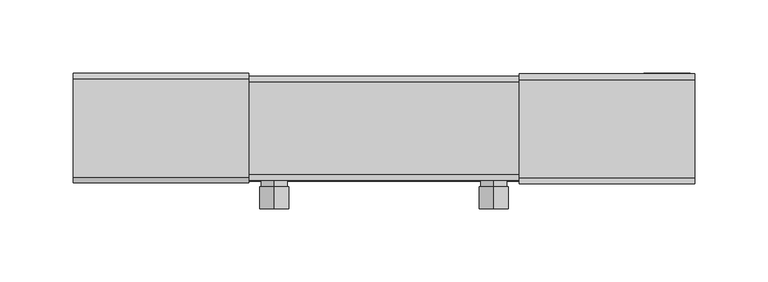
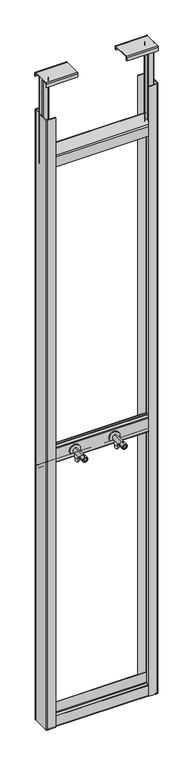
"""IFC4 building model written with IfcOpenShell, lengths in millimetres: flow terminal geometry, NLRS_74_PF_TLB_HU-ASM-BR-AP_Geberit : HU-ASM-BR-AP."""

from ifc_helpers import new_model, si_unit, point, frame, frame_2d, origin, place, context, project, spatial, polyline, circle_curve, trimmed, segment, composite_curve, outline, extrude, source, transform, mapped, element, save
from ifc_brep_helpers import plane_surface, cylinder_surface, revolved_surface, advanced_brep


def flow_terminal_70dfd4ff(model_context):
    return source(origin(), model_context, "Body", "SolidModel", [
        extrude(outline(composite_curve([segment(trimmed(circle_curve(frame_2d((850.0, 894.5814924)), 20.0), [point((841.7647059, 912.8072964))], [point((841.7647059, 876.3556885))], False, "CARTESIAN"), True, "CONTINUOUS"), segment(trimmed(circle_curve(frame_2d((843.0, 879.0895591)), 3.0), [point((841.7647059, 876.3556885))], [point((840.0, 879.0895591))], False, "CARTESIAN"), True, "CONTINUOUS"), segment(polyline([(840.0, 879.0895591), (840.0, 910.0734258)]), True, "CONTINUOUS"), segment(trimmed(circle_curve(frame_2d((843.0, 910.0734258)), 3.0), [point((840.0, 910.0734258))], [point((841.7647059, 912.8072964))], False, "CARTESIAN"), True, "CONTINUOUS")], self_intersect=False)), frame((0.0, 48.2121106, 0.0), z_axis=(0.0, 1.0, 0.0), x_axis=(0.0, 0.0, 1.0)), (0.0, 0.0, 1.0), 5.0),
        advanced_brep(
        [(894.5814924, 35.2121106, 815.0), (894.5814924, 41.2121106, 815.0), (894.5814924, 29.2121106, 815.0), (894.5814924, 41.2121106, 830.0), (894.5814924, 29.2121106, 830.0), (894.5814924, 43.2121106, 830.0), (894.5814924, 27.2121106, 830.0), (894.5814924, 43.2121106, 850.0), (894.5814924, 27.2121106, 850.0), (894.5814924, 35.2121106, 850.0)],
        [
            (0, 1),
            (1, 2, circle_curve(frame((894.5814924, 35.2121106, 815.0), z_axis=(0.0, 0.0, -1.0), x_axis=(0.0, 1.0, 0.0)), 6.0)),
            (2, 0),
            (2, 1, circle_curve(frame((894.5814924, 35.2121106, 815.0), z_axis=(0.0, 0.0, -1.0), x_axis=(0.0, 1.0, 0.0)), 6.0)),
            (1, 3),
            (3, 4, circle_curve(frame((894.5814924, 35.2121106, 830.0), z_axis=(0.0, 0.0, -1.0), x_axis=(0.0, 1.0, 0.0)), 6.0)),
            (4, 2),
            (4, 3, circle_curve(frame((894.5814924, 35.2121106, 830.0), z_axis=(0.0, 0.0, -1.0), x_axis=(0.0, 1.0, 0.0)), 6.0)),
            (3, 5),
            (5, 6, circle_curve(frame((894.5814924, 35.2121106, 830.0), z_axis=(0.0, 0.0, -1.0), x_axis=(0.0, 1.0, 0.0)), 8.0)),
            (6, 4),
            (6, 5, circle_curve(frame((894.5814924, 35.2121106, 830.0), z_axis=(0.0, 0.0, -1.0), x_axis=(0.0, 1.0, 0.0)), 8.0)),
            (5, 7),
            (7, 8, circle_curve(frame((894.5814924, 35.2121106, 850.0), z_axis=(0.0, 0.0, -1.0), x_axis=(0.0, 1.0, 0.0)), 8.0)),
            (8, 6),
            (8, 7, circle_curve(frame((894.5814924, 35.2121106, 850.0), z_axis=(0.0, 0.0, -1.0), x_axis=(0.0, 1.0, 0.0)), 8.0)),
            (7, 9),
            (9, 8),
        ],
        [
            plane_surface(frame((894.5814924, 35.2121106, 815.0), z_axis=(0.0, 0.0, -1.0), x_axis=(0.0, 1.0, 0.0))),
            cylinder_surface(frame((894.5814924, 35.2121106, 854.6416054), z_axis=(0.0, 0.0, -1.0), x_axis=(0.0, 1.0, 0.0)), 6.0),
            plane_surface(frame((894.5814924, 35.2121106, 830.0), z_axis=(0.0, 0.0, -1.0), x_axis=(0.0, 1.0, 0.0))),
            cylinder_surface(frame((894.5814924, 35.2121106, 854.6416054), z_axis=(0.0, 0.0, -1.0), x_axis=(0.0, 1.0, 0.0)), 8.0),
            plane_surface(frame((894.5814924, 35.2121106, 850.0), z_axis=(0.0, 0.0, 1.0), x_axis=(0.0, 1.0, 0.0))),
        ],
        [
            (0, [[1, 2, 3]]),
            (0, [[-3, 4, -1]]),
            (1, [[-2, 5, 6, 7]]),
            (1, [[-4, -7, 8, -5]]),
            (2, [[-6, 9, 10, 11]]),
            (2, [[-8, -11, 12, -9]]),
            (3, [[-10, 13, 14, 15]]),
            (3, [[-12, -15, 16, -13]]),
            (4, [[-14, 17, 18]]),
            (4, [[-16, -18, -17]]),
        ],
    ),
        advanced_brep(
        [(894.5814924, -1.7878894, 841.0), (894.5814924, -1.7878894, 859.0), (894.5814924, -1.7878894, 860.0), (894.5814924, -1.7878894, 840.0), (894.5814924, -16.7878894, 860.0), (894.5814924, -16.7878894, 840.0), (894.5814924, -16.7878894, 856.0), (894.5814924, -16.7878894, 844.0), (894.5814924, 13.2121106, 856.0), (894.5814924, 13.2121106, 844.0), (894.5814924, 13.2121106, 850.0), (894.5814924, 48.2121106, 850.0), (894.5814924, 48.2121106, 859.0), (894.5814924, 48.2121106, 841.0)],
        [
            (0, 1, circle_curve(frame((894.5814924, -1.7878894, 850.0), z_axis=(0.0, -1.0, 0.0), x_axis=(0.0, 0.0, 1.0)), 9.0)),
            (1, 2),
            (2, 3, circle_curve(frame((894.5814924, -1.7878894, 850.0), z_axis=(0.0, 1.0, 0.0), x_axis=(0.0, 0.0, 1.0)), 10.0)),
            (3, 0),
            (1, 0, circle_curve(frame((894.5814924, -1.7878894, 850.0), z_axis=(0.0, -1.0, 0.0), x_axis=(0.0, 0.0, 1.0)), 9.0)),
            (3, 2, circle_curve(frame((894.5814924, -1.7878894, 850.0), z_axis=(0.0, 1.0, 0.0), x_axis=(0.0, 0.0, 1.0)), 10.0)),
            (2, 4),
            (4, 5, circle_curve(frame((894.5814924, -16.7878894, 850.0), z_axis=(0.0, 1.0, 0.0), x_axis=(0.0, 0.0, 1.0)), 10.0)),
            (5, 3),
            (5, 4, circle_curve(frame((894.5814924, -16.7878894, 850.0), z_axis=(0.0, 1.0, 0.0), x_axis=(0.0, 0.0, 1.0)), 10.0)),
            (4, 6),
            (6, 7, circle_curve(frame((894.5814924, -16.7878894, 850.0), z_axis=(0.0, 1.0, 0.0), x_axis=(0.0, 0.0, 1.0)), 6.0)),
            (7, 5),
            (7, 6, circle_curve(frame((894.5814924, -16.7878894, 850.0), z_axis=(0.0, 1.0, 0.0), x_axis=(0.0, 0.0, 1.0)), 6.0)),
            (6, 8),
            (8, 9, circle_curve(frame((894.5814924, 13.2121106, 850.0), z_axis=(0.0, 1.0, 0.0), x_axis=(0.0, 0.0, 1.0)), 6.0)),
            (9, 7),
            (9, 8, circle_curve(frame((894.5814924, 13.2121106, 850.0), z_axis=(0.0, 1.0, 0.0), x_axis=(0.0, 0.0, 1.0)), 6.0)),
            (8, 10),
            (10, 9),
            (11, 12),
            (12, 13, circle_curve(frame((894.5814924, 48.2121106, 850.0), z_axis=(0.0, 1.0, 0.0), x_axis=(0.0, 0.0, 1.0)), 9.0)),
            (13, 11),
            (13, 12, circle_curve(frame((894.5814924, 48.2121106, 850.0), z_axis=(0.0, 1.0, 0.0), x_axis=(0.0, 0.0, 1.0)), 9.0)),
            (12, 1),
            (0, 13),
        ],
        [
            plane_surface(frame((894.5814924, -1.7878894, 850.0), z_axis=(0.0, 1.0, 0.0), x_axis=(0.0, 0.0, 1.0))),
            cylinder_surface(frame((894.5814924, 1495.6330064, 850.0), z_axis=(0.0, 1.0, 0.0), x_axis=(0.0, 0.0, 1.0)), 10.0),
            plane_surface(frame((894.5814924, -16.7878894, 850.0), z_axis=(0.0, -1.0, 0.0), x_axis=(0.0, 0.0, 1.0))),
            revolved_surface(polyline([(894.5814924, 13.21211059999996, 856.0), (894.5814924, -16.78788940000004, 856.0)]), (894.5814924, 1495.6330064, 850.0), (0.0, 1.0, 0.0)),
            plane_surface(frame((894.5814924, 13.2121106, 850.0), z_axis=(0.0, -1.0, 0.0), x_axis=(0.0, 0.0, 1.0))),
            plane_surface(frame((894.5814924, 48.2121106, 850.0), z_axis=(0.0, 1.0, 0.0), x_axis=(0.0, 0.0, 1.0))),
            cylinder_surface(frame((894.5814924, 1495.6330064, 850.0), z_axis=(0.0, 1.0, 0.0), x_axis=(0.0, 0.0, 1.0)), 9.0),
        ],
        [
            (0, [[1, 2, 3, 4]]),
            (0, [[5, -4, 6, -2]]),
            (1, [[-3, 7, 8, 9]]),
            (1, [[-6, -9, 10, -7]]),
            (2, [[-8, 11, 12, 13]]),
            (2, [[-10, -13, 14, -11]]),
            (3, [[-12, 15, 16, 17]]),
            (3, [[-14, -17, 18, -15]]),
            (4, [[-16, 19, 20]]),
            (4, [[-18, -20, -19]]),
            (5, [[21, 22, 23]]),
            (5, [[-23, 24, -21]]),
            (6, [[-22, 25, -1, 26]]),
            (6, [[-24, -26, -5, -25]]),
        ],
    ),
        extrude(outline(composite_curve([segment(trimmed(circle_curve(frame_2d((850.0, 744.5814924)), 20.0), [point((841.7647059, 762.8072964))], [point((841.7647059, 726.3556885))], False, "CARTESIAN"), True, "CONTINUOUS"), segment(trimmed(circle_curve(frame_2d((843.0, 729.0895591)), 3.0), [point((841.7647059, 726.3556885))], [point((840.0, 729.0895591))], False, "CARTESIAN"), True, "CONTINUOUS"), segment(polyline([(840.0, 729.0895591), (840.0, 760.0734258)]), True, "CONTINUOUS"), segment(trimmed(circle_curve(frame_2d((843.0, 760.0734258)), 3.0), [point((840.0, 760.0734258))], [point((841.7647059, 762.8072964))], False, "CARTESIAN"), True, "CONTINUOUS")], self_intersect=False)), frame((0.0, 48.2121106, 0.0), z_axis=(0.0, 1.0, 0.0), x_axis=(0.0, 0.0, 1.0)), (0.0, 0.0, 1.0), 5.0),
        advanced_brep(
        [(744.5814924, 35.2121106, 815.0), (744.5814924, 41.2121106, 815.0), (744.5814924, 29.2121106, 815.0), (744.5814924, 41.2121106, 830.0), (744.5814924, 29.2121106, 830.0), (744.5814924, 43.2121106, 830.0), (744.5814924, 27.2121106, 830.0), (744.5814924, 43.2121106, 850.0), (744.5814924, 27.2121106, 850.0), (744.5814924, 35.2121106, 850.0)],
        [
            (0, 1),
            (1, 2, circle_curve(frame((744.5814924, 35.2121106, 815.0), z_axis=(0.0, 0.0, -1.0), x_axis=(0.0, 1.0, 0.0)), 6.0)),
            (2, 0),
            (2, 1, circle_curve(frame((744.5814924, 35.2121106, 815.0), z_axis=(0.0, 0.0, -1.0), x_axis=(0.0, 1.0, 0.0)), 6.0)),
            (1, 3),
            (3, 4, circle_curve(frame((744.5814924, 35.2121106, 830.0), z_axis=(0.0, 0.0, -1.0), x_axis=(0.0, 1.0, 0.0)), 6.0)),
            (4, 2),
            (4, 3, circle_curve(frame((744.5814924, 35.2121106, 830.0), z_axis=(0.0, 0.0, -1.0), x_axis=(0.0, 1.0, 0.0)), 6.0)),
            (3, 5),
            (5, 6, circle_curve(frame((744.5814924, 35.2121106, 830.0), z_axis=(0.0, 0.0, -1.0), x_axis=(0.0, 1.0, 0.0)), 8.0)),
            (6, 4),
            (6, 5, circle_curve(frame((744.5814924, 35.2121106, 830.0), z_axis=(0.0, 0.0, -1.0), x_axis=(0.0, 1.0, 0.0)), 8.0)),
            (5, 7),
            (7, 8, circle_curve(frame((744.5814924, 35.2121106, 850.0), z_axis=(0.0, 0.0, -1.0), x_axis=(0.0, 1.0, 0.0)), 8.0)),
            (8, 6),
            (8, 7, circle_curve(frame((744.5814924, 35.2121106, 850.0), z_axis=(0.0, 0.0, -1.0), x_axis=(0.0, 1.0, 0.0)), 8.0)),
            (7, 9),
            (9, 8),
        ],
        [
            plane_surface(frame((744.5814924, 35.2121106, 815.0), z_axis=(0.0, 0.0, -1.0), x_axis=(0.0, 1.0, 0.0))),
            cylinder_surface(frame((744.5814924, 35.2121106, 854.6416054), z_axis=(0.0, 0.0, -1.0), x_axis=(0.0, 1.0, 0.0)), 6.0),
            plane_surface(frame((744.5814924, 35.2121106, 830.0), z_axis=(0.0, 0.0, -1.0), x_axis=(0.0, 1.0, 0.0))),
            cylinder_surface(frame((744.5814924, 35.2121106, 854.6416054), z_axis=(0.0, 0.0, -1.0), x_axis=(0.0, 1.0, 0.0)), 8.0),
            plane_surface(frame((744.5814924, 35.2121106, 850.0), z_axis=(0.0, 0.0, 1.0), x_axis=(0.0, 1.0, 0.0))),
        ],
        [
            (0, [[1, 2, 3]]),
            (0, [[-3, 4, -1]]),
            (1, [[-2, 5, 6, 7]]),
            (1, [[-4, -7, 8, -5]]),
            (2, [[-6, 9, 10, 11]]),
            (2, [[-8, -11, 12, -9]]),
            (3, [[-10, 13, 14, 15]]),
            (3, [[-12, -15, 16, -13]]),
            (4, [[-14, 17, 18]]),
            (4, [[-16, -18, -17]]),
        ],
    ),
        advanced_brep(
        [(744.5814924, -1.7878894, 841.0), (744.5814924, -1.7878894, 859.0), (744.5814924, -1.7878894, 860.0), (744.5814924, -1.7878894, 840.0), (744.5814924, -16.7878894, 860.0), (744.5814924, -16.7878894, 840.0), (744.5814924, -16.7878894, 856.0), (744.5814924, -16.7878894, 844.0), (744.5814924, 13.2121106, 856.0), (744.5814924, 13.2121106, 844.0), (744.5814924, 13.2121106, 850.0), (744.5814924, 48.2121106, 850.0), (744.5814924, 48.2121106, 859.0), (744.5814924, 48.2121106, 841.0)],
        [
            (0, 1, circle_curve(frame((744.5814924, -1.7878894, 850.0), z_axis=(0.0, -1.0, 0.0), x_axis=(0.0, 0.0, 1.0)), 9.0)),
            (1, 2),
            (2, 3, circle_curve(frame((744.5814924, -1.7878894, 850.0), z_axis=(0.0, 1.0, 0.0), x_axis=(0.0, 0.0, 1.0)), 10.0)),
            (3, 0),
            (1, 0, circle_curve(frame((744.5814924, -1.7878894, 850.0), z_axis=(0.0, -1.0, 0.0), x_axis=(0.0, 0.0, 1.0)), 9.0)),
            (3, 2, circle_curve(frame((744.5814924, -1.7878894, 850.0), z_axis=(0.0, 1.0, 0.0), x_axis=(0.0, 0.0, 1.0)), 10.0)),
            (2, 4),
            (4, 5, circle_curve(frame((744.5814924, -16.7878894, 850.0), z_axis=(0.0, 1.0, 0.0), x_axis=(0.0, 0.0, 1.0)), 10.0)),
            (5, 3),
            (5, 4, circle_curve(frame((744.5814924, -16.7878894, 850.0), z_axis=(0.0, 1.0, 0.0), x_axis=(0.0, 0.0, 1.0)), 10.0)),
            (4, 6),
            (6, 7, circle_curve(frame((744.5814924, -16.7878894, 850.0), z_axis=(0.0, 1.0, 0.0), x_axis=(0.0, 0.0, 1.0)), 6.0)),
            (7, 5),
            (7, 6, circle_curve(frame((744.5814924, -16.7878894, 850.0), z_axis=(0.0, 1.0, 0.0), x_axis=(0.0, 0.0, 1.0)), 6.0)),
            (6, 8),
            (8, 9, circle_curve(frame((744.5814924, 13.2121106, 850.0), z_axis=(0.0, 1.0, 0.0), x_axis=(0.0, 0.0, 1.0)), 6.0)),
            (9, 7),
            (9, 8, circle_curve(frame((744.5814924, 13.2121106, 850.0), z_axis=(0.0, 1.0, 0.0), x_axis=(0.0, 0.0, 1.0)), 6.0)),
            (8, 10),
            (10, 9),
            (11, 12),
            (12, 13, circle_curve(frame((744.5814924, 48.2121106, 850.0), z_axis=(0.0, 1.0, 0.0), x_axis=(0.0, 0.0, 1.0)), 9.0)),
            (13, 11),
            (13, 12, circle_curve(frame((744.5814924, 48.2121106, 850.0), z_axis=(0.0, 1.0, 0.0), x_axis=(0.0, 0.0, 1.0)), 9.0)),
            (12, 1),
            (0, 13),
        ],
        [
            plane_surface(frame((744.5814924, -1.7878894, 850.0), z_axis=(0.0, 1.0, 0.0), x_axis=(0.0, 0.0, 1.0))),
            cylinder_surface(frame((744.5814924, 1495.6330064, 850.0), z_axis=(0.0, 1.0, 0.0), x_axis=(0.0, 0.0, 1.0)), 10.0),
            plane_surface(frame((744.5814924, -16.7878894, 850.0), z_axis=(0.0, -1.0, 0.0), x_axis=(0.0, 0.0, 1.0))),
            revolved_surface(polyline([(744.5814924, 13.21211059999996, 856.0), (744.5814924, -16.78788940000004, 856.0)]), (744.5814924, 1495.6330064, 850.0), (0.0, 1.0, 0.0)),
            plane_surface(frame((744.5814924, 13.2121106, 850.0), z_axis=(0.0, -1.0, 0.0), x_axis=(0.0, 0.0, 1.0))),
            plane_surface(frame((744.5814924, 48.2121106, 850.0), z_axis=(0.0, 1.0, 0.0), x_axis=(0.0, 0.0, 1.0))),
            cylinder_surface(frame((744.5814924, 1495.6330064, 850.0), z_axis=(0.0, 1.0, 0.0), x_axis=(0.0, 0.0, 1.0)), 9.0),
        ],
        [
            (0, [[1, 2, 3, 4]]),
            (0, [[5, -4, 6, -2]]),
            (1, [[-3, 7, 8, 9]]),
            (1, [[-6, -9, 10, -7]]),
            (2, [[-8, 11, 12, 13]]),
            (2, [[-10, -13, 14, -11]]),
            (3, [[-12, 15, 16, 17]]),
            (3, [[-14, -17, 18, -15]]),
            (4, [[-16, 19, 20]]),
            (4, [[-18, -20, -19]]),
            (5, [[21, 22, 23]]),
            (5, [[-23, 24, -21]]),
            (6, [[-22, 25, -1, 26]]),
            (6, [[-24, -26, -5, -25]]),
        ],
    ),
        extrude(outline(composite_curve([segment(polyline([(997.0814924, 0.5), (997.0814924, 2.5), (1028.0814924, 2.5)]), True, "CONTINUOUS"), segment(trimmed(circle_curve(frame_2d((1028.0814924, 4.5)), 2.0), [point((1028.0814924, 2.5))], [point((1030.0814924, 4.5))], True, "CARTESIAN"), True, "CONTINUOUS"), segment(polyline([(1030.0814924, 4.5), (1030.0814924, 71.5)]), True, "CONTINUOUS"), segment(trimmed(circle_curve(frame_2d((1028.0814924, 71.5)), 2.0), [point((1030.0814924, 71.5))], [point((1028.0814924, 73.5))], True, "CARTESIAN"), True, "CONTINUOUS"), segment(polyline([(1028.0814924, 73.5), (997.0814924, 73.5), (997.0814924, 75.5), (1028.0814924, 75.5)]), True, "CONTINUOUS"), segment(trimmed(circle_curve(frame_2d((1028.0814924, 71.5)), 4.0), [point((1028.0814924, 75.5))], [point((1032.0814924, 71.5))], False, "CARTESIAN"), True, "CONTINUOUS"), segment(polyline([(1032.0814924, 71.5), (1032.0814924, 4.5)]), True, "CONTINUOUS"), segment(trimmed(circle_curve(frame_2d((1028.0814924, 4.5)), 4.0), [point((1032.0814924, 4.5))], [point((1028.0814924, 0.5))], False, "CARTESIAN"), True, "CONTINUOUS"), segment(polyline([(1028.0814924, 0.5), (997.0814924, 0.5)]), True, "CONTINUOUS")], self_intersect=False)), frame((0.0, 0.0, -200.0), z_axis=(0.0, 0.0, 1.0), x_axis=(1.0, 0.0, 0.0)), (0.0, 0.0, 1.0), 2450.0),
        extrude(outline(composite_curve([segment(polyline([(642.0814924, 0.5), (611.0814924, 0.5)]), True, "CONTINUOUS"), segment(trimmed(circle_curve(frame_2d((611.0814924, 4.5)), 4.0), [point((611.0814924, 0.5))], [point((607.0814924, 4.5))], False, "CARTESIAN"), True, "CONTINUOUS"), segment(polyline([(607.0814924, 4.5), (607.0814924, 71.5)]), True, "CONTINUOUS"), segment(trimmed(circle_curve(frame_2d((611.0814924, 71.5)), 4.0), [point((607.0814924, 71.5))], [point((611.0814924, 75.5))], False, "CARTESIAN"), True, "CONTINUOUS"), segment(polyline([(611.0814924, 75.5), (642.0814924, 75.5), (642.0814924, 73.5), (611.0814924, 73.5)]), True, "CONTINUOUS"), segment(trimmed(circle_curve(frame_2d((611.0814924, 71.5)), 2.0), [point((611.0814924, 73.5))], [point((609.0814924, 71.5))], True, "CARTESIAN"), True, "CONTINUOUS"), segment(polyline([(609.0814924, 71.5), (609.0814924, 4.5)]), True, "CONTINUOUS"), segment(trimmed(circle_curve(frame_2d((611.0814924, 4.5)), 2.0), [point((609.0814924, 4.5))], [point((611.0814924, 2.5))], True, "CARTESIAN"), True, "CONTINUOUS"), segment(polyline([(611.0814924, 2.5), (642.0814924, 2.5), (642.0814924, 0.5)]), True, "CONTINUOUS")], self_intersect=False)), frame((0.0, 0.0, -200.0), z_axis=(0.0, 0.0, 1.0), x_axis=(1.0, 0.0, 0.0)), (0.0, 0.0, 1.0), 2450.0),
        extrude(outline(composite_curve([segment(polyline([(2.0, -156.0), (4.0, -156.0), (4.0, -196.0)]), True, "CONTINUOUS"), segment(trimmed(circle_curve(frame_2d((6.0, -196.0)), 2.0), [point((4.0, -196.0))], [point((6.0, -198.0))], True, "CARTESIAN"), True, "CONTINUOUS"), segment(polyline([(6.0, -198.0), (69.0, -198.0)]), True, "CONTINUOUS"), segment(trimmed(circle_curve(frame_2d((69.0, -196.0)), 2.0), [point((69.0, -198.0))], [point((71.0, -196.0))], True, "CARTESIAN"), True, "CONTINUOUS"), segment(polyline([(71.0, -196.0), (71.0, -156.0), (73.0, -156.0), (73.0, -196.0)]), True, "CONTINUOUS"), segment(trimmed(circle_curve(frame_2d((69.0, -196.0)), 4.0), [point((73.0, -196.0))], [point((69.0, -200.0))], False, "CARTESIAN"), True, "CONTINUOUS"), segment(polyline([(69.0, -200.0), (6.0, -200.0)]), True, "CONTINUOUS"), segment(trimmed(circle_curve(frame_2d((6.0, -196.0)), 4.0), [point((6.0, -200.0))], [point((2.0, -196.0))], False, "CARTESIAN"), True, "CONTINUOUS"), segment(polyline([(2.0, -196.0), (2.0, -156.0)]), True, "CONTINUOUS")], self_intersect=False)), frame((612.0814924, 0.0, 0.0), z_axis=(1.0, 0.0, 0.0), x_axis=(0.0, 1.0, 0.0)), (0.0, 0.0, 1.0), 415.0),
        extrude(outline(composite_curve([segment(polyline([(2.5, 2050.0), (2.5, 2090.0)]), True, "CONTINUOUS"), segment(trimmed(circle_curve(frame_2d((6.5, 2090.0)), 4.0), [point((2.5, 2090.0))], [point((6.5, 2094.0))], False, "CARTESIAN"), True, "CONTINUOUS"), segment(polyline([(6.5, 2094.0), (69.5, 2094.0)]), True, "CONTINUOUS"), segment(trimmed(circle_curve(frame_2d((69.5, 2090.0)), 4.0), [point((69.5, 2094.0))], [point((73.5, 2090.0))], False, "CARTESIAN"), True, "CONTINUOUS"), segment(polyline([(73.5, 2090.0), (73.5, 2050.0), (71.5, 2050.0), (71.5, 2090.0)]), True, "CONTINUOUS"), segment(trimmed(circle_curve(frame_2d((69.5, 2090.0)), 2.0), [point((71.5, 2090.0))], [point((69.5, 2092.0))], True, "CARTESIAN"), True, "CONTINUOUS"), segment(polyline([(69.5, 2092.0), (6.5, 2092.0)]), True, "CONTINUOUS"), segment(trimmed(circle_curve(frame_2d((6.5, 2090.0)), 2.0), [point((6.5, 2092.0))], [point((4.5, 2090.0))], True, "CARTESIAN"), True, "CONTINUOUS"), segment(polyline([(4.5, 2090.0), (4.5, 2050.0), (2.5, 2050.0)]), True, "CONTINUOUS")], self_intersect=False)), frame((612.0814924, 0.0, 0.0), z_axis=(1.0, 0.0, 0.0), x_axis=(0.0, 1.0, 0.0)), (0.0, 0.0, 1.0), 415.0),
        advanced_brep(
        [(912.0814924, 0.0, 2396.0), (912.0814924, 4.0, 2400.0), (912.0814924, 71.0, 2400.0), (912.0814924, 75.0, 2396.0), (912.0814924, 75.0, 2387.0), (912.0814924, 73.0, 2387.0), (912.0814924, 73.0, 2396.0), (912.0814924, 71.0, 2398.0), (912.0814924, 4.0, 2398.0), (912.0814924, 2.0, 2396.0), (912.0814924, 2.0, 2387.0), (912.0814924, 0.0, 2387.0), (1032.0814924, 0.0, 2383.0), (1032.0814924, 2.0, 2383.0), (1032.0814924, 2.0, 2396.0), (1032.0814924, 4.0, 2398.0), (1032.0814924, 29.0, 2398.0), (1032.0814924, 29.0, 2050.0), (1032.0814924, 46.0, 2050.0), (1032.0814924, 46.0, 2398.0), (1032.0814924, 71.0, 2398.0), (1032.0814924, 73.0, 2396.0), (1032.0814924, 73.0, 2383.0), (1032.0814924, 75.0, 2383.0), (1032.0814924, 75.0, 2396.0), (1032.0814924, 71.0, 2400.0), (1032.0814924, 4.0, 2400.0), (1032.0814924, 0.0, 2396.0), (916.0814924, 0.0, 2383.0), (916.0814924, 2.0, 2383.0), (1028.0814924, 50.0, 2398.0), (1011.0814924, 50.0, 2398.0), (1007.0814924, 46.0, 2398.0), (1007.0814924, 29.0, 2398.0), (1011.0814924, 25.0, 2398.0), (1028.0814924, 25.0, 2398.0), (1011.0814924, 27.0, 2398.0), (1009.0814924, 29.0, 2398.0), (1009.0814924, 46.0, 2398.0), (1011.0814924, 48.0, 2398.0), (1028.0814924, 48.0, 2398.0), (1030.0814924, 46.0, 2398.0), (1030.0814924, 29.0, 2398.0), (1028.0814924, 27.0, 2398.0), (916.0814924, 73.0, 2383.0), (916.0814924, 75.0, 2383.0), (1011.0814924, 25.0, 2050.0), (1007.0814924, 29.0, 2050.0), (1007.0814924, 46.0, 2050.0), (1011.0814924, 50.0, 2050.0), (1028.0814924, 50.0, 2050.0), (1028.0814924, 25.0, 2050.0), (1011.0814924, 27.0, 2050.0), (1028.0814924, 27.0, 2050.0), (1030.0814924, 29.0, 2050.0), (1030.0814924, 46.0, 2050.0), (1028.0814924, 48.0, 2050.0), (1011.0814924, 48.0, 2050.0), (1009.0814924, 46.0, 2050.0), (1009.0814924, 29.0, 2050.0)],
        [
            (0, 1, circle_curve(frame((912.0814924, 4.0, 2396.0), z_axis=(-1.0, 0.0, 0.0), x_axis=(0.0, 0.0, 1.0)), 4.0)),
            (1, 2),
            (2, 3, circle_curve(frame((912.0814924, 71.0, 2396.0), z_axis=(-1.0, 0.0, 0.0), x_axis=(0.0, 0.0, 1.0)), 4.0)),
            (3, 4),
            (4, 5),
            (5, 6),
            (6, 7, circle_curve(frame((912.0814924, 71.0, 2396.0), z_axis=(1.0, 0.0, 0.0), x_axis=(0.0, 0.0, 1.0)), 2.0)),
            (7, 8),
            (8, 9, circle_curve(frame((912.0814924, 4.0, 2396.0), z_axis=(1.0, 0.0, 0.0), x_axis=(0.0, 0.0, 1.0)), 2.0)),
            (9, 10),
            (10, 11),
            (11, 0),
            (12, 13),
            (13, 14),
            (14, 15, circle_curve(frame((1032.0814924, 4.0, 2396.0), z_axis=(-1.0, 0.0, 0.0), x_axis=(0.0, 0.0, 1.0)), 2.0)),
            (15, 16),
            (16, 17),
            (17, 18),
            (18, 19),
            (19, 20),
            (20, 21, circle_curve(frame((1032.0814924, 71.0, 2396.0), z_axis=(-1.0, 0.0, 0.0), x_axis=(0.0, 0.0, 1.0)), 2.0)),
            (21, 22),
            (22, 23),
            (23, 24),
            (24, 25, circle_curve(frame((1032.0814924, 71.0, 2396.0), z_axis=(1.0, 0.0, 0.0), x_axis=(0.0, 0.0, 1.0)), 4.0)),
            (25, 26),
            (26, 27, circle_curve(frame((1032.0814924, 4.0, 2396.0), z_axis=(1.0, 0.0, 0.0), x_axis=(0.0, 0.0, 1.0)), 4.0)),
            (27, 12),
            (12, 28),
            (28, 29),
            (29, 13),
            (29, 10, circle_curve(frame((916.0814924, 2.0, 2387.0), z_axis=(0.0, 1.0, 0.0), x_axis=(0.0, 0.0, 1.0)), 4.0)),
            (9, 14),
            (8, 15),
            (7, 20),
            (19, 30, circle_curve(frame((1028.0814924, 46.0, 2398.0), z_axis=(0.0, 0.0, 1.0), x_axis=(-1.0, 0.0, 0.0)), 4.0)),
            (30, 31),
            (31, 32, circle_curve(frame((1011.0814924, 46.0, 2398.0), z_axis=(0.0, 0.0, 1.0), x_axis=(-1.0, 0.0, 0.0)), 4.0)),
            (32, 33),
            (33, 34, circle_curve(frame((1011.0814924, 29.0, 2398.0), z_axis=(0.0, 0.0, 1.0), x_axis=(-1.0, 0.0, 0.0)), 4.0)),
            (34, 35),
            (35, 16, circle_curve(frame((1028.0814924, 29.0, 2398.0), z_axis=(0.0, 0.0, 1.0), x_axis=(-1.0, 0.0, 0.0)), 4.0)),
            (36, 37, circle_curve(frame((1011.0814924, 29.0, 2398.0), z_axis=(0.0, 0.0, -1.0), x_axis=(-1.0, 0.0, 0.0)), 2.0)),
            (37, 38),
            (38, 39, circle_curve(frame((1011.0814924, 46.0, 2398.0), z_axis=(0.0, 0.0, -1.0), x_axis=(-1.0, 0.0, 0.0)), 2.0)),
            (39, 40),
            (40, 41, circle_curve(frame((1028.0814924, 46.0, 2398.0), z_axis=(0.0, 0.0, -1.0), x_axis=(-1.0, 0.0, 0.0)), 2.0)),
            (41, 42),
            (42, 43, circle_curve(frame((1028.0814924, 29.0, 2398.0), z_axis=(0.0, 0.0, -1.0), x_axis=(-1.0, 0.0, 0.0)), 2.0)),
            (43, 36),
            (6, 21),
            (5, 44, circle_curve(frame((916.0814924, 73.0, 2387.0), z_axis=(0.0, -1.0, 0.0), x_axis=(0.0, 0.0, 1.0)), 4.0)),
            (44, 22),
            (44, 45),
            (45, 23),
            (45, 4, circle_curve(frame((916.0814924, 75.0, 2387.0), z_axis=(0.0, 1.0, 0.0), x_axis=(0.0, 0.0, 1.0)), 4.0)),
            (3, 24),
            (2, 25),
            (1, 26),
            (0, 27),
            (11, 28, circle_curve(frame((916.0814924, 0.0, 2387.0), z_axis=(0.0, -1.0, 0.0), x_axis=(0.0, 0.0, 1.0)), 4.0)),
            (46, 47, circle_curve(frame((1011.0814924, 29.0, 2050.0), z_axis=(0.0, 0.0, -1.0), x_axis=(-1.0, 0.0, 0.0)), 4.0)),
            (47, 48),
            (48, 49, circle_curve(frame((1011.0814924, 46.0, 2050.0), z_axis=(0.0, 0.0, -1.0), x_axis=(-1.0, 0.0, 0.0)), 4.0)),
            (49, 50),
            (50, 18, circle_curve(frame((1028.0814924, 46.0, 2050.0), z_axis=(0.0, 0.0, -1.0), x_axis=(-1.0, 0.0, 0.0)), 4.0)),
            (17, 51, circle_curve(frame((1028.0814924, 29.0, 2050.0), z_axis=(0.0, 0.0, -1.0), x_axis=(-1.0, 0.0, 0.0)), 4.0)),
            (51, 46),
            (52, 53),
            (53, 54, circle_curve(frame((1028.0814924, 29.0, 2050.0), z_axis=(0.0, 0.0, 1.0), x_axis=(-1.0, 0.0, 0.0)), 2.0)),
            (54, 55),
            (55, 56, circle_curve(frame((1028.0814924, 46.0, 2050.0), z_axis=(0.0, 0.0, 1.0), x_axis=(-1.0, 0.0, 0.0)), 2.0)),
            (56, 57),
            (57, 58, circle_curve(frame((1011.0814924, 46.0, 2050.0), z_axis=(0.0, 0.0, 1.0), x_axis=(-1.0, 0.0, 0.0)), 2.0)),
            (58, 59),
            (59, 52, circle_curve(frame((1011.0814924, 29.0, 2050.0), z_axis=(0.0, 0.0, 1.0), x_axis=(-1.0, 0.0, 0.0)), 2.0)),
            (51, 35),
            (34, 46),
            (50, 30),
            (49, 31),
            (48, 32),
            (47, 33),
            (59, 37),
            (36, 52),
            (58, 38),
            (57, 39),
            (56, 40),
            (55, 41),
            (54, 42),
            (53, 43),
        ],
        [
            plane_surface(frame((912.0814924, 2.0, 2383.0), z_axis=(-1.0, 0.0, 0.0), x_axis=(0.0, -1.0, 0.0))),
            plane_surface(frame((1032.0814924, 2.0, 2383.0), z_axis=(1.0, 0.0, 0.0), x_axis=(0.0, 1.0, 0.0))),
            plane_surface(frame((1032.0814924, 0.0, 2383.0), z_axis=(0.0, 0.0, -1.0), x_axis=(-1.0, 0.0, 0.0))),
            plane_surface(frame((1032.0814924, 2.0, 2383.0), z_axis=(0.0, 1.0, 0.0), x_axis=(-1.0, 0.0, 0.0))),
            revolved_surface(polyline([(912.0814924, 4.0, 2398.0), (1032.0814924, 4.0, 2398.0)]), (912.0814924, 4.0, 2396.0), (-1.0, 0.0, 0.0)),
            plane_surface(frame((1032.0814924, 4.0, 2398.0), z_axis=(0.0, 0.0, -1.0), x_axis=(-1.0, 0.0, 0.0))),
            revolved_surface(polyline([(912.0814924, 71.0, 2398.0), (1032.0814924, 71.0, 2398.0)]), (912.0814924, 71.0, 2396.0), (-1.0, 0.0, 0.0)),
            plane_surface(frame((1032.0814924, 73.0, 2396.0), z_axis=(0.0, -1.0, 0.0), x_axis=(-1.0, 0.0, 0.0))),
            plane_surface(frame((1032.0814924, 73.0, 2383.0), z_axis=(0.0, 0.0, -1.0), x_axis=(-1.0, 0.0, 0.0))),
            plane_surface(frame((1032.0814924, 75.0, 2383.0), z_axis=(0.0, 1.0, 0.0), x_axis=(-1.0, 0.0, 0.0))),
            cylinder_surface(frame((912.0814924, 71.0, 2396.0), z_axis=(1.0, 0.0, 0.0), x_axis=(0.0, 0.0, 1.0)), 4.0),
            plane_surface(frame((1032.0814924, 71.0, 2400.0), z_axis=(0.0, 0.0, 1.0), x_axis=(-1.0, 0.0, 0.0))),
            cylinder_surface(frame((912.0814924, 4.0, 2396.0), z_axis=(1.0, 0.0, 0.0), x_axis=(0.0, 0.0, 1.0)), 4.0),
            plane_surface(frame((1032.0814924, 0.0, 2396.0), z_axis=(0.0, -1.0, 0.0), x_axis=(-1.0, 0.0, 0.0))),
            plane_surface(frame((1032.0814924, 25.0, 2050.0), z_axis=(0.0, 0.0, -1.0), x_axis=(-1.0, 0.0, 0.0))),
            plane_surface(frame((1011.0814924, 25.0, 2400.0), z_axis=(0.0, -1.0, 0.0), x_axis=(0.0, 0.0, -1.0))),
            cylinder_surface(frame((1028.0814924, 29.0, 2050.0), z_axis=(0.0, 0.0, 1.0), x_axis=(-1.0, 0.0, 0.0)), 4.0),
            cylinder_surface(frame((1028.0814924, 46.0, 2050.0), z_axis=(0.0, 0.0, 1.0), x_axis=(-1.0, 0.0, 0.0)), 4.0),
            plane_surface(frame((1028.0814924, 50.0, 2400.0), z_axis=(0.0, 1.0, 0.0), x_axis=(0.0, 0.0, -1.0))),
            cylinder_surface(frame((1011.0814924, 46.0, 2050.0), z_axis=(0.0, 0.0, 1.0), x_axis=(-1.0, 0.0, 0.0)), 4.0),
            plane_surface(frame((1007.0814924, 46.0, 2400.0), z_axis=(-1.0, 0.0, 0.0), x_axis=(0.0, 0.0, -1.0))),
            cylinder_surface(frame((1011.0814924, 29.0, 2050.0), z_axis=(0.0, 0.0, 1.0), x_axis=(-1.0, 0.0, 0.0)), 4.0),
            revolved_surface(polyline([(1009.0814924, 29.0, 2050.0), (1009.0814924, 29.0, 2398.0)]), (1011.0814924, 29.0, 2050.0), (0.0, 0.0, -1.0)),
            plane_surface(frame((1009.0814924, 29.0, 2400.0), z_axis=(1.0, 0.0, 0.0), x_axis=(0.0, 0.0, -1.0))),
            revolved_surface(polyline([(1009.0814924, 46.0, 2050.0), (1009.0814924, 46.0, 2398.0)]), (1011.0814924, 46.0, 2050.0), (0.0, 0.0, -1.0)),
            plane_surface(frame((1011.0814924, 48.0, 2400.0), z_axis=(0.0, -1.0, 0.0), x_axis=(0.0, 0.0, -1.0))),
            revolved_surface(polyline([(1026.0814924, 46.0, 2050.0), (1026.0814924, 46.0, 2398.0)]), (1028.0814924, 46.0, 2050.0), (0.0, 0.0, -1.0)),
            plane_surface(frame((1030.0814924, 46.0, 2400.0), z_axis=(-1.0, 0.0, 0.0), x_axis=(0.0, 0.0, -1.0))),
            revolved_surface(polyline([(1026.0814924, 29.0, 2050.0), (1026.0814924, 29.0, 2398.0)]), (1028.0814924, 29.0, 2050.0), (0.0, 0.0, -1.0)),
            plane_surface(frame((1028.0814924, 27.0, 2400.0), z_axis=(0.0, 1.0, 0.0), x_axis=(0.0, 0.0, -1.0))),
            cylinder_surface(frame((916.0814924, 120.0, 2387.0), z_axis=(0.0, 1.0, 0.0), x_axis=(0.0, 0.0, 1.0)), 4.0),
        ],
        [
            (0, [[1, 2, 3, 4, 5, 6, 7, 8, 9, 10, 11, 12]]),
            (1, [[13, 14, 15, 16, 17, 18, 19, 20, 21, 22, 23, 24, 25, 26, 27, 28]]),
            (2, [[-13, 29, 30, 31]]),
            (3, [[-14, -31, 32, -10, 33]]),
            (4, [[-9, 34, -15, -33]]),
            (5, [[-8, 35, -20, 36, 37, 38, 39, 40, 41, 42, -16, -34]]),
            (5, [[43, 44, 45, 46, 47, 48, 49, 50]]),
            (6, [[-7, 51, -21, -35]]),
            (7, [[-22, -51, -6, 52, 53]]),
            (8, [[-23, -53, 54, 55]]),
            (9, [[-24, -55, 56, -4, 57]]),
            (10, [[-3, 58, -25, -57]]),
            (11, [[-2, 59, -26, -58]]),
            (12, [[-1, 60, -27, -59]]),
            (13, [[-28, -60, -12, 61, -29]]),
            (14, [[62, 63, 64, 65, 66, -18, 67, 68], [69, 70, 71, 72, 73, 74, 75, 76]]),
            (15, [[-68, 77, -41, 78]]),
            (16, [[-67, -17, -42, -77]]),
            (17, [[-66, 79, -36, -19]]),
            (18, [[-65, 80, -37, -79]]),
            (19, [[-64, 81, -38, -80]]),
            (20, [[-63, 82, -39, -81]]),
            (21, [[-62, -78, -40, -82]]),
            (22, [[-76, 83, -43, 84]]),
            (23, [[-75, 85, -44, -83]]),
            (24, [[-74, 86, -45, -85]]),
            (25, [[-73, 87, -46, -86]]),
            (26, [[-72, 88, -47, -87]]),
            (27, [[-71, 89, -48, -88]]),
            (28, [[-70, 90, -49, -89]]),
            (29, [[-69, -84, -50, -90]]),
            (30, [[-5, -56, -54, -52]]),
            (30, [[-11, -32, -30, -61]]),
        ],
    ),
        advanced_brep(
        [(727.0814924, 0.5, 2396.0), (727.0814924, 0.5, 2387.0), (727.0814924, 2.5, 2387.0), (727.0814924, 2.5, 2396.0), (727.0814924, 4.5, 2398.0), (727.0814924, 71.5, 2398.0), (727.0814924, 73.5, 2396.0), (727.0814924, 73.5, 2387.0), (727.0814924, 75.5, 2387.0), (727.0814924, 75.5, 2396.0), (727.0814924, 71.5, 2400.0), (727.0814924, 4.5, 2400.0), (607.0814924, 0.5, 2383.0), (607.0814924, 0.5, 2396.0), (607.0814924, 4.5, 2400.0), (607.0814924, 71.5, 2400.0), (607.0814924, 75.5, 2396.0), (607.0814924, 75.5, 2383.0), (607.0814924, 73.5, 2383.0), (607.0814924, 73.5, 2396.0), (607.0814924, 71.5, 2398.0), (607.0814924, 46.5, 2398.0), (607.0814924, 46.5, 2050.0), (607.0814924, 29.5, 2050.0), (607.0814924, 29.5, 2398.0), (607.0814924, 4.5, 2398.0), (607.0814924, 2.5, 2396.0), (607.0814924, 2.5, 2383.0), (723.0814924, 2.5, 2383.0), (723.0814924, 0.5, 2383.0), (611.0814924, 25.5, 2398.0), (628.0814924, 25.5, 2398.0), (632.0814924, 29.5, 2398.0), (632.0814924, 46.5, 2398.0), (628.0814924, 50.5, 2398.0), (611.0814924, 50.5, 2398.0), (628.0814924, 27.5, 2398.0), (611.0814924, 27.5, 2398.0), (609.0814924, 29.5, 2398.0), (609.0814924, 46.5, 2398.0), (611.0814924, 48.5, 2398.0), (628.0814924, 48.5, 2398.0), (630.0814924, 46.5, 2398.0), (630.0814924, 29.5, 2398.0), (723.0814924, 73.5, 2383.0), (723.0814924, 75.5, 2383.0), (628.0814924, 25.5, 2050.0), (611.0814924, 25.5, 2050.0), (611.0814924, 50.5, 2050.0), (628.0814924, 50.5, 2050.0), (632.0814924, 46.5, 2050.0), (632.0814924, 29.5, 2050.0), (628.0814924, 27.5, 2050.0), (630.0814924, 29.5, 2050.0), (630.0814924, 46.5, 2050.0), (628.0814924, 48.5, 2050.0), (611.0814924, 48.5, 2050.0), (609.0814924, 46.5, 2050.0), (609.0814924, 29.5, 2050.0), (611.0814924, 27.5, 2050.0)],
        [
            (0, 1),
            (1, 2),
            (2, 3),
            (3, 4, circle_curve(frame((727.0814924, 4.5, 2396.0), z_axis=(-1.0, 0.0, 0.0), x_axis=(0.0, 0.0, 1.0)), 2.0)),
            (4, 5),
            (5, 6, circle_curve(frame((727.0814924, 71.5, 2396.0), z_axis=(-1.0, 0.0, 0.0), x_axis=(0.0, 0.0, 1.0)), 2.0)),
            (6, 7),
            (7, 8),
            (8, 9),
            (9, 10, circle_curve(frame((727.0814924, 71.5, 2396.0), z_axis=(1.0, 0.0, 0.0), x_axis=(0.0, 0.0, 1.0)), 4.0)),
            (10, 11),
            (11, 0, circle_curve(frame((727.0814924, 4.5, 2396.0), z_axis=(1.0, 0.0, 0.0), x_axis=(0.0, 0.0, 1.0)), 4.0)),
            (12, 13),
            (13, 14, circle_curve(frame((607.0814924, 4.5, 2396.0), z_axis=(-1.0, 0.0, 0.0), x_axis=(0.0, 0.0, 1.0)), 4.0)),
            (14, 15),
            (15, 16, circle_curve(frame((607.0814924, 71.5, 2396.0), z_axis=(-1.0, 0.0, 0.0), x_axis=(0.0, 0.0, 1.0)), 4.0)),
            (16, 17),
            (17, 18),
            (18, 19),
            (19, 20, circle_curve(frame((607.0814924, 71.5, 2396.0), z_axis=(1.0, 0.0, 0.0), x_axis=(0.0, 0.0, 1.0)), 2.0)),
            (20, 21),
            (21, 22),
            (22, 23),
            (23, 24),
            (24, 25),
            (25, 26, circle_curve(frame((607.0814924, 4.5, 2396.0), z_axis=(1.0, 0.0, 0.0), x_axis=(0.0, 0.0, 1.0)), 2.0)),
            (26, 27),
            (27, 12),
            (27, 28),
            (28, 29),
            (29, 12),
            (26, 3),
            (2, 28, circle_curve(frame((723.0814924, 2.5, 2387.0), z_axis=(0.0, 1.0, 0.0), x_axis=(0.0, 0.0, 1.0)), 4.0)),
            (25, 4),
            (24, 30, circle_curve(frame((611.0814924, 29.5, 2398.0), z_axis=(0.0, 0.0, 1.0), x_axis=(1.0, 0.0, 0.0)), 4.0)),
            (30, 31),
            (31, 32, circle_curve(frame((628.0814924, 29.5, 2398.0), z_axis=(0.0, 0.0, 1.0), x_axis=(1.0, 0.0, 0.0)), 4.0)),
            (32, 33),
            (33, 34, circle_curve(frame((628.0814924, 46.5, 2398.0), z_axis=(0.0, 0.0, 1.0), x_axis=(1.0, 0.0, 0.0)), 4.0)),
            (34, 35),
            (35, 21, circle_curve(frame((611.0814924, 46.5, 2398.0), z_axis=(0.0, 0.0, 1.0), x_axis=(1.0, 0.0, 0.0)), 4.0)),
            (20, 5),
            (36, 37),
            (37, 38, circle_curve(frame((611.0814924, 29.5, 2398.0), z_axis=(0.0, 0.0, -1.0), x_axis=(1.0, 0.0, 0.0)), 2.0)),
            (38, 39),
            (39, 40, circle_curve(frame((611.0814924, 46.5, 2398.0), z_axis=(0.0, 0.0, -1.0), x_axis=(1.0, 0.0, 0.0)), 2.0)),
            (40, 41),
            (41, 42, circle_curve(frame((628.0814924, 46.5, 2398.0), z_axis=(0.0, 0.0, -1.0), x_axis=(1.0, 0.0, 0.0)), 2.0)),
            (42, 43),
            (43, 36, circle_curve(frame((628.0814924, 29.5, 2398.0), z_axis=(0.0, 0.0, -1.0), x_axis=(1.0, 0.0, 0.0)), 2.0)),
            (19, 6),
            (18, 44),
            (44, 7, circle_curve(frame((723.0814924, 73.5, 2387.0), z_axis=(0.0, -1.0, 0.0), x_axis=(0.0, 0.0, 1.0)), 4.0)),
            (17, 45),
            (45, 44),
            (16, 9),
            (8, 45, circle_curve(frame((723.0814924, 75.5, 2387.0), z_axis=(0.0, 1.0, 0.0), x_axis=(0.0, 0.0, 1.0)), 4.0)),
            (15, 10),
            (14, 11),
            (13, 0),
            (29, 1, circle_curve(frame((723.0814924, 0.5, 2387.0), z_axis=(0.0, -1.0, 0.0), x_axis=(0.0, 0.0, 1.0)), 4.0)),
            (46, 47),
            (47, 23, circle_curve(frame((611.0814924, 29.5, 2050.0), z_axis=(0.0, 0.0, -1.0), x_axis=(1.0, 0.0, 0.0)), 4.0)),
            (22, 48, circle_curve(frame((611.0814924, 46.5, 2050.0), z_axis=(0.0, 0.0, -1.0), x_axis=(1.0, 0.0, 0.0)), 4.0)),
            (48, 49),
            (49, 50, circle_curve(frame((628.0814924, 46.5, 2050.0), z_axis=(0.0, 0.0, -1.0), x_axis=(1.0, 0.0, 0.0)), 4.0)),
            (50, 51),
            (51, 46, circle_curve(frame((628.0814924, 29.5, 2050.0), z_axis=(0.0, 0.0, -1.0), x_axis=(1.0, 0.0, 0.0)), 4.0)),
            (52, 53, circle_curve(frame((628.0814924, 29.5, 2050.0), z_axis=(0.0, 0.0, 1.0), x_axis=(1.0, 0.0, 0.0)), 2.0)),
            (53, 54),
            (54, 55, circle_curve(frame((628.0814924, 46.5, 2050.0), z_axis=(0.0, 0.0, 1.0), x_axis=(1.0, 0.0, 0.0)), 2.0)),
            (55, 56),
            (56, 57, circle_curve(frame((611.0814924, 46.5, 2050.0), z_axis=(0.0, 0.0, 1.0), x_axis=(1.0, 0.0, 0.0)), 2.0)),
            (57, 58),
            (58, 59, circle_curve(frame((611.0814924, 29.5, 2050.0), z_axis=(0.0, 0.0, 1.0), x_axis=(1.0, 0.0, 0.0)), 2.0)),
            (59, 52),
            (46, 31),
            (30, 47),
            (35, 48),
            (34, 49),
            (33, 50),
            (32, 51),
            (52, 36),
            (43, 53),
            (42, 54),
            (41, 55),
            (40, 56),
            (39, 57),
            (38, 58),
            (37, 59),
        ],
        [
            plane_surface(frame((727.0814924, 2.5, 2383.0), z_axis=(1.0, 0.0, 0.0), x_axis=(0.0, -1.0, 0.0))),
            plane_surface(frame((607.0814924, 2.5, 2383.0), z_axis=(-1.0, 0.0, 0.0), x_axis=(0.0, 1.0, 0.0))),
            plane_surface(frame((607.0814924, 0.5, 2383.0), z_axis=(0.0, 0.0, -1.0), x_axis=(1.0, 0.0, 0.0))),
            plane_surface(frame((607.0814924, 2.5, 2383.0), z_axis=(0.0, 1.0, 0.0), x_axis=(1.0, 0.0, 0.0))),
            revolved_surface(polyline([(727.0814924, 4.5, 2398.0), (607.0814924, 4.5, 2398.0)]), (727.0814924, 4.5, 2396.0), (1.0, 0.0, 0.0)),
            plane_surface(frame((607.0814924, 4.5, 2398.0), z_axis=(0.0, 0.0, -1.0), x_axis=(1.0, 0.0, 0.0))),
            revolved_surface(polyline([(727.0814924, 71.5, 2398.0), (607.0814924, 71.5, 2398.0)]), (727.0814924, 71.5, 2396.0), (1.0, 0.0, 0.0)),
            plane_surface(frame((607.0814924, 73.5, 2396.0), z_axis=(0.0, -1.0, 0.0), x_axis=(1.0, 0.0, 0.0))),
            plane_surface(frame((607.0814924, 73.5, 2383.0), z_axis=(0.0, 0.0, -1.0), x_axis=(1.0, 0.0, 0.0))),
            plane_surface(frame((607.0814924, 75.5, 2383.0), z_axis=(0.0, 1.0, 0.0), x_axis=(1.0, 0.0, 0.0))),
            cylinder_surface(frame((727.0814924, 71.5, 2396.0), z_axis=(-1.0, 0.0, 0.0), x_axis=(0.0, 0.0, 1.0)), 4.0),
            plane_surface(frame((607.0814924, 71.5, 2400.0), z_axis=(0.0, 0.0, 1.0), x_axis=(1.0, 0.0, 0.0))),
            cylinder_surface(frame((727.0814924, 4.5, 2396.0), z_axis=(-1.0, 0.0, 0.0), x_axis=(0.0, 0.0, 1.0)), 4.0),
            plane_surface(frame((607.0814924, 0.5, 2396.0), z_axis=(0.0, -1.0, 0.0), x_axis=(1.0, 0.0, 0.0))),
            plane_surface(frame((607.0814924, 25.5, 2050.0), z_axis=(0.0, 0.0, -1.0), x_axis=(1.0, 0.0, 0.0))),
            plane_surface(frame((628.0814924, 25.5, 2400.0), z_axis=(0.0, -1.0, 0.0), x_axis=(0.0, 0.0, -1.0))),
            cylinder_surface(frame((611.0814924, 29.5, 2050.0), z_axis=(0.0, 0.0, 1.0), x_axis=(1.0, 0.0, 0.0)), 4.0),
            cylinder_surface(frame((611.0814924, 46.5, 2050.0), z_axis=(0.0, 0.0, 1.0), x_axis=(1.0, 0.0, 0.0)), 4.0),
            plane_surface(frame((611.0814924, 50.5, 2400.0), z_axis=(0.0, 1.0, 0.0), x_axis=(0.0, 0.0, -1.0))),
            cylinder_surface(frame((628.0814924, 46.5, 2050.0), z_axis=(0.0, 0.0, 1.0), x_axis=(1.0, 0.0, 0.0)), 4.0),
            plane_surface(frame((632.0814924, 46.5, 2400.0), z_axis=(1.0, 0.0, 0.0), x_axis=(0.0, 0.0, -1.0))),
            cylinder_surface(frame((628.0814924, 29.5, 2050.0), z_axis=(0.0, 0.0, 1.0), x_axis=(1.0, 0.0, 0.0)), 4.0),
            revolved_surface(polyline([(630.0814924, 29.5, 2050.0), (630.0814924, 29.5, 2398.0)]), (628.0814924, 29.5, 2050.0), (0.0, 0.0, -1.0)),
            plane_surface(frame((630.0814924, 29.5, 2400.0), z_axis=(-1.0, 0.0, 0.0), x_axis=(0.0, 0.0, -1.0))),
            revolved_surface(polyline([(630.0814924, 46.5, 2050.0), (630.0814924, 46.5, 2398.0)]), (628.0814924, 46.5, 2050.0), (0.0, 0.0, -1.0)),
            plane_surface(frame((628.0814924, 48.5, 2400.0), z_axis=(0.0, -1.0, 0.0), x_axis=(0.0, 0.0, -1.0))),
            revolved_surface(polyline([(613.0814924, 46.5, 2050.0), (613.0814924, 46.5, 2398.0)]), (611.0814924, 46.5, 2050.0), (0.0, 0.0, -1.0)),
            plane_surface(frame((609.0814924, 46.5, 2400.0), z_axis=(1.0, 0.0, 0.0), x_axis=(0.0, 0.0, -1.0))),
            revolved_surface(polyline([(613.0814924, 29.5, 2050.0), (613.0814924, 29.5, 2398.0)]), (611.0814924, 29.5, 2050.0), (0.0, 0.0, -1.0)),
            plane_surface(frame((611.0814924, 27.5, 2400.0), z_axis=(0.0, 1.0, 0.0), x_axis=(0.0, 0.0, -1.0))),
            cylinder_surface(frame((723.0814924, 120.5, 2387.0), z_axis=(0.0, 1.0, 0.0), x_axis=(0.0, 0.0, 1.0)), 4.0),
        ],
        [
            (0, [[1, 2, 3, 4, 5, 6, 7, 8, 9, 10, 11, 12]]),
            (1, [[13, 14, 15, 16, 17, 18, 19, 20, 21, 22, 23, 24, 25, 26, 27, 28]]),
            (2, [[29, 30, 31, -28]]),
            (3, [[32, -3, 33, -29, -27]]),
            (4, [[-32, -26, 34, -4]]),
            (5, [[-34, -25, 35, 36, 37, 38, 39, 40, 41, -21, 42, -5]]),
            (5, [[43, 44, 45, 46, 47, 48, 49, 50]]),
            (6, [[-42, -20, 51, -6]]),
            (7, [[52, 53, -7, -51, -19]]),
            (8, [[54, 55, -52, -18]]),
            (9, [[56, -9, 57, -54, -17]]),
            (10, [[-56, -16, 58, -10]]),
            (11, [[-58, -15, 59, -11]]),
            (12, [[-59, -14, 60, -12]]),
            (13, [[-31, 61, -1, -60, -13]]),
            (14, [[62, 63, -23, 64, 65, 66, 67, 68], [69, 70, 71, 72, 73, 74, 75, 76]]),
            (15, [[77, -36, 78, -62]]),
            (16, [[-78, -35, -24, -63]]),
            (17, [[-22, -41, 79, -64]]),
            (18, [[-79, -40, 80, -65]]),
            (19, [[-80, -39, 81, -66]]),
            (20, [[-81, -38, 82, -67]]),
            (21, [[-82, -37, -77, -68]]),
            (22, [[83, -50, 84, -69]]),
            (23, [[-84, -49, 85, -70]]),
            (24, [[-85, -48, 86, -71]]),
            (25, [[-86, -47, 87, -72]]),
            (26, [[-87, -46, 88, -73]]),
            (27, [[-88, -45, 89, -74]]),
            (28, [[-89, -44, 90, -75]]),
            (29, [[-90, -43, -83, -76]]),
            (30, [[-53, -55, -57, -8]]),
            (30, [[-61, -30, -33, -2]]),
        ],
    ),
        extrude(outline(composite_curve([segment(polyline([(71.0121106, 886.0), (73.0, 886.0), (73.0, 879.0241319)]), True, "CONTINUOUS"), segment(trimmed(circle_curve(frame_2d((71.0, 879.0241319)), 2.0), [point((73.0, 879.0241319))], [point((71.0, 877.0241319))], False, "CARTESIAN"), True, "CONTINUOUS"), segment(polyline([(71.0, 877.0241319), (56.0, 877.0241319)]), True, "CONTINUOUS"), segment(trimmed(circle_curve(frame_2d((56.0, 876.2362425)), 0.7878894), [point((56.0, 877.0241319))], [point((55.2121106, 876.2362425))], True, "CARTESIAN"), True, "CONTINUOUS"), segment(polyline([(55.2121106, 876.2362425), (55.2121106, 824.7001262)]), True, "CONTINUOUS"), segment(trimmed(circle_curve(frame_2d((56.2194564, 824.7001262)), 1.0073458), [point((55.2121106, 824.7001262))], [point((56.2194564, 823.6927804))], True, "CARTESIAN"), True, "CONTINUOUS"), segment(polyline([(56.2194564, 823.6927804), (70.8193614, 823.6927804)]), True, "CONTINUOUS"), segment(trimmed(circle_curve(frame_2d((70.8193614, 821.5121418)), 2.1806386), [point((70.8193614, 823.6927804))], [point((73.0, 821.5121418))], False, "CARTESIAN"), True, "CONTINUOUS"), segment(polyline([(73.0, 821.5121418), (73.0, 813.9544364), (71.0146756, 813.9544364), (71.0146756, 820.207019)]), True, "CONTINUOUS"), segment(trimmed(circle_curve(frame_2d((69.5289142, 820.207019)), 1.4857614), [point((71.0146756, 820.207019))], [point((69.5289142, 821.6927804))], True, "CARTESIAN"), True, "CONTINUOUS"), segment(polyline([(69.5289142, 821.6927804), (54.7171062, 821.6927804)]), True, "CONTINUOUS"), segment(trimmed(circle_curve(frame_2d((54.7171062, 823.197776)), 1.5049956), [point((54.7171062, 821.6927804))], [point((53.2121106, 823.197776))], False, "CARTESIAN"), True, "CONTINUOUS"), segment(polyline([(53.2121106, 823.197776), (53.2121106, 876.8)]), True, "CONTINUOUS"), segment(trimmed(circle_curve(frame_2d((55.3121106, 876.8)), 2.1), [point((53.2121106, 876.8))], [point((55.3121106, 878.9))], False, "CARTESIAN"), True, "CONTINUOUS"), segment(polyline([(55.3121106, 878.9), (70.3121106, 878.9)]), True, "CONTINUOUS"), segment(trimmed(circle_curve(frame_2d((70.3121106, 879.6)), 0.7), [point((70.3121106, 878.9))], [point((71.0121106, 879.6))], True, "CARTESIAN"), True, "CONTINUOUS"), segment(polyline([(71.0121106, 879.6), (71.0121106, 886.0)]), True, "CONTINUOUS")], self_intersect=False)), frame((609.0814924, 0.0, 0.0), z_axis=(1.0, 0.0, 0.0), x_axis=(0.0, 1.0, 0.0)), (0.0, 0.0, 1.0), 421.0),
    ])


if __name__ == "__main__":
    model = new_model("IFC4")
    model_context = context("Model", 3, world=origin())
    ifc_project = project(units=[si_unit("LENGTHUNIT", "METRE", prefix="MILLI")], contexts=[model_context])
    site = spatial("IfcSite", under=ifc_project)
    building = spatial("IfcBuilding", under=site)
    placement = place(None, origin())
    flow_terminal_shape = flow_terminal_70dfd4ff(model_context)
    element("IfcFlowTerminal", 1, ObjectType="NLRS_74_PF_TLB_HU-ASM-BR-AP_Geberit : HU-ASM-BR-AP", at=placement, inside=building, context=model_context, shape_type="MappedRepresentation", body=[
        mapped(flow_terminal_shape, transform((0.0, 0.0, 0.0), x_axis=(1.0, 0.0, 0.0), y_axis=(0.0, 1.0, 0.0), z_axis=(0.0, 0.0, 1.0))),
    ])
    save(model, "model.ifc")
